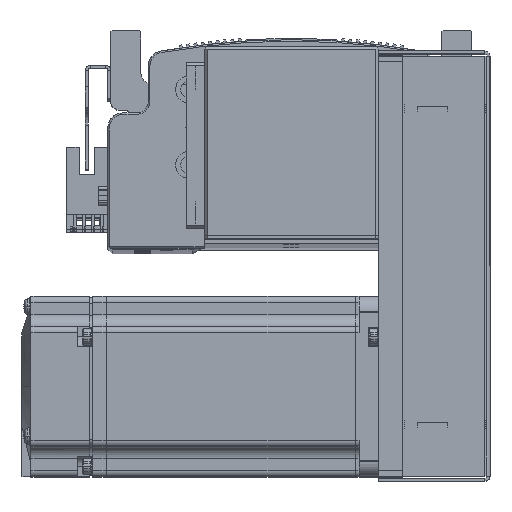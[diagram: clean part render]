
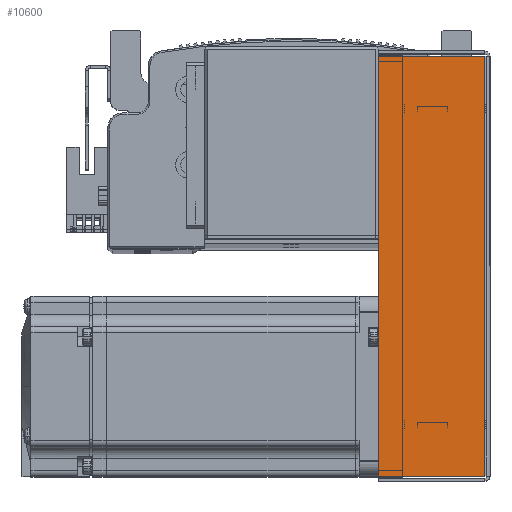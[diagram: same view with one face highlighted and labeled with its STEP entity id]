
A CAD part, top view. The second image highlights one B-rep face of the part: STEP entity #10600.
In plain terms, the highlighted planar face has unit normal (0, 0, 1).
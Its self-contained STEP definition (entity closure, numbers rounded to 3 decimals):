
#2523 = EDGE_LOOP ( 'NONE', ( #73051, #73056, #73030, #73096 ) ) ;
#10578 = EDGE_CURVE ( 'NONE', #76444, #76534, #49558, .T. ) ;
#10597 = EDGE_CURVE ( 'NONE', #76476, #76444, #49531, .T. ) ;
#10600 = ADVANCED_FACE ( 'NONE', ( #49550 ), #23241, .F. ) ;
#10620 = EDGE_CURVE ( 'NONE', #76476, #76490, #49643, .T. ) ;
#10665 = EDGE_CURVE ( 'NONE', #76490, #76534, #49715, .T. ) ;
#23000 = CARTESIAN_POINT ( 'NONE',  ( 0., 36., 33.5 ) ) ;
#23002 = DIRECTION ( 'NONE',  ( -1., 0., 0. ) ) ;
#23138 = CARTESIAN_POINT ( 'NONE',  ( 69.793, 0., 33.5 ) ) ;
#23199 = DIRECTION ( 'NONE',  ( 0., 1., 0. ) ) ;
#23204 = DIRECTION ( 'NONE',  ( 0., 0., -1. ) ) ;
#23241 = PLANE ( 'NONE',  #52090 ) ;
#23248 = CARTESIAN_POINT ( 'NONE',  ( 0., 0., 33.5 ) ) ;
#23312 = DIRECTION ( 'NONE',  ( -1., 0., 0. ) ) ;
#23596 = CARTESIAN_POINT ( 'NONE',  ( -71.5, 0.737, 33.5 ) ) ;
#23613 = DIRECTION ( 'NONE',  ( -1., 0., 0. ) ) ;
#24052 = DIRECTION ( 'NONE',  ( 0., 1., 0. ) ) ;
#24116 = CARTESIAN_POINT ( 'NONE',  ( -69.793, 0., 33.5 ) ) ;
#49500 = VECTOR ( 'NONE', #23199, 1000. ) ;
#49531 = LINE ( 'NONE', #23138, #49500 ) ;
#49543 = VECTOR ( 'NONE', #23002, 1000. ) ;
#49550 = FACE_OUTER_BOUND ( 'NONE', #2523, .T. ) ;
#49558 = LINE ( 'NONE', #23000, #49543 ) ;
#49628 = VECTOR ( 'NONE', #23613, 1000. ) ;
#49643 = LINE ( 'NONE', #23596, #49628 ) ;
#49715 = LINE ( 'NONE', #24116, #49742 ) ;
#49742 = VECTOR ( 'NONE', #24052, 1000. ) ;
#52090 = AXIS2_PLACEMENT_3D ( 'NONE', #23248, #23204, #23312 ) ;
#62057 = CARTESIAN_POINT ( 'NONE',  ( -69.793, 0.737, 33.5 ) ) ;
#62067 = CARTESIAN_POINT ( 'NONE',  ( 69.793, 0.737, 33.5 ) ) ;
#62082 = CARTESIAN_POINT ( 'NONE',  ( 69.793, 36., 33.5 ) ) ;
#62128 = CARTESIAN_POINT ( 'NONE',  ( -69.793, 36., 33.5 ) ) ;
#73030 = ORIENTED_EDGE ( 'NONE', *, *, #10578, .T. ) ;
#73051 = ORIENTED_EDGE ( 'NONE', *, *, #10620, .F. ) ;
#73056 = ORIENTED_EDGE ( 'NONE', *, *, #10597, .T. ) ;
#73096 = ORIENTED_EDGE ( 'NONE', *, *, #10665, .F. ) ;
#76444 = VERTEX_POINT ( 'NONE', #62082 ) ;
#76476 = VERTEX_POINT ( 'NONE', #62067 ) ;
#76490 = VERTEX_POINT ( 'NONE', #62057 ) ;
#76534 = VERTEX_POINT ( 'NONE', #62128 ) ;
